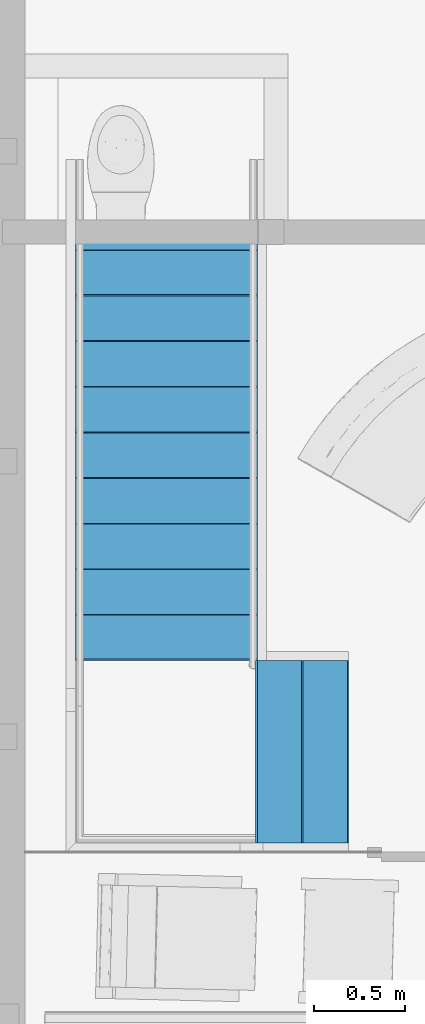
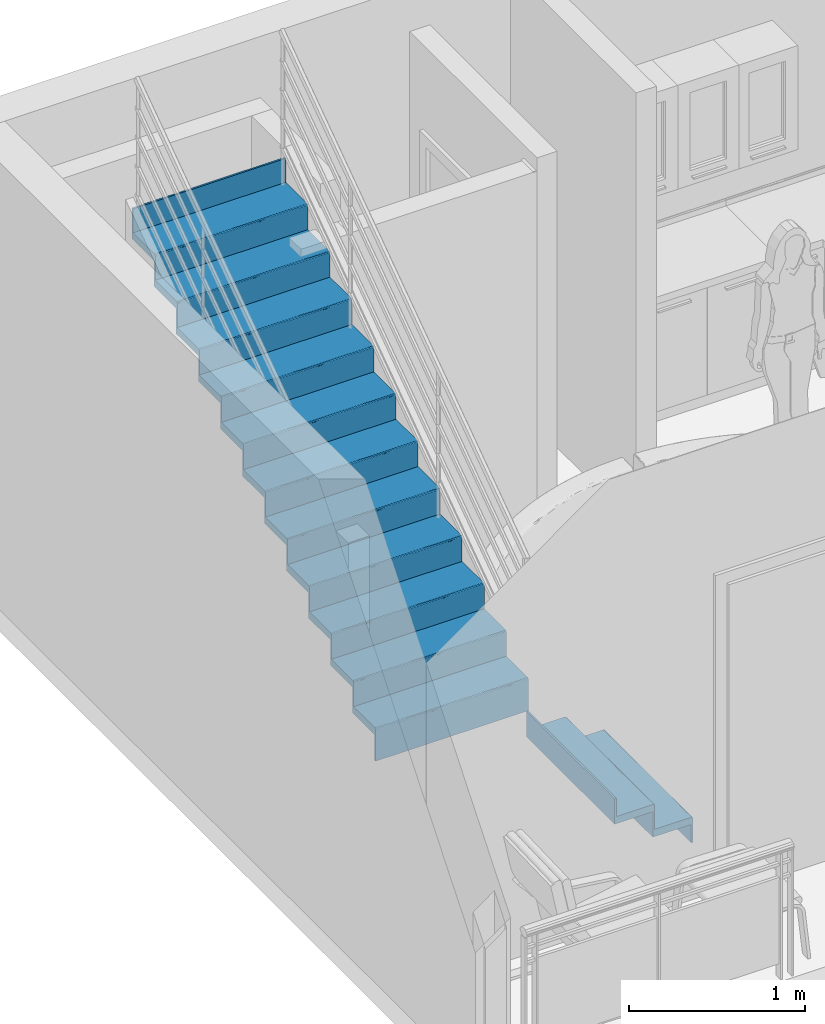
# One storey, part 3 of 7: 2 stair flights, 1 element without a shape of its own.
"""IFC2X3 building model written with IfcOpenShell, lengths in metres."""

from ifc_helpers import new_model, entity, si_unit, converted_unit, derived_unit, direction, frame, frame_2d, origin, origin_2d_with_axis, place, context, subcontext, project, spatial, polyline, circle_curve, parameter, trimmed, segment, composite_curve, rectangle, outline, extrude, material, type_object, element, aggregate, save


model = new_model("IFC2X3")

# Units and contexts
model_context = context("Model", 3, precision=1e-05, world=origin(), true_north=direction((6.123233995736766e-17, 1.0)))
body_context = subcontext(model_context, "Body", "Model", "MODEL_VIEW")
ifc_project = project(units=[si_unit("LENGTHUNIT", "METRE"), si_unit("AREAUNIT", "SQUARE_METRE"), converted_unit("PLANEANGLEUNIT", "DEGREE", entity("IfcPlaneAngleMeasure", 0.017453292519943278), si_unit("PLANEANGLEUNIT", "RADIAN"), dimensions=[0, 0, 0, 0, 0, 0, 0]), derived_unit("THERMALTRANSMITTANCEUNIT", [(si_unit("MASSUNIT", "GRAM", prefix="KILO"), 1), (si_unit("THERMODYNAMICTEMPERATUREUNIT", "KELVIN"), -1), (si_unit("TIMEUNIT", "SECOND"), -3)])], contexts=[model_context])

# Site, building, storey
site_placement = place(None, origin())
site = spatial("IfcSite", under=ifc_project, at=site_placement, Name="Default", CompositionType="ELEMENT")
building_placement = place(site_placement, origin())
building = spatial("IfcBuilding", under=site, at=building_placement, CompositionType="ELEMENT")
storey_placement = place(building_placement, origin())
storey = spatial("IfcBuildingStorey", under=building, at=storey_placement, Name="0 - Ground Floor", CompositionType="ELEMENT", Elevation=0.0)

# Stair, stair flights
type_product = type_object("IfcTypeProduct", Name="Assembled Stair:Industrial and Assembly")
stair_placement = place(storey_placement, origin())
stair = element("IfcStair", 1, at=stair_placement, inside=storey, type_object=type_product, Name="Assembled Stair:Stair", ObjectType="Assembled Stair:Industrial and Assembly", ShapeType="QUARTER_TURN_STAIR")
ifc_material = material(Name="Default - Calcestruzzo")
stair_flight_type = type_object("IfcStairFlightType", Name="Non-Monolithic Run:50mm Tread 13mm Riser with Nosing", PredefinedType="STRAIGHT")
stair_flight_1_placement = place(stair_placement, origin())
stair_flight_1 = element("IfcStairFlight", 2, at=stair_flight_1_placement, type_object=stair_flight_type, material=ifc_material, Name="Assembled Stair:Stair:593008 Run 1", ObjectType="Non-Monolithic Run:50mm Tread 13mm Riser with Nosing", NumberOfRiser=3, NumberOfTreads=2, RiserHeight=0.5789717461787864, TreadLength=0.8202099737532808, context=body_context, shape_type="SweptSolid", body=[
    extrude(rectangle(XDim=1.0, YDim=0.0125, at=origin_2d_with_axis()), frame((-0.5381740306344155, -0.6917499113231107, 0.35294117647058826), z_axis=(0.0, 0.0, 1.0), x_axis=(0.0, -1.0, 0.0)), (0.0, 0.0, 1.0), 0.16647058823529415),
    extrude(outline(composite_curve([segment(trimmed(circle_curve(frame_2d((-0.09600000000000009, 0.014000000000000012), x_axis=(1.0, 0.0)), 0.009999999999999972), [parameter(90.00000000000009)], [parameter(269.9999999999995)], True, "PARAMETER"), True, "CONTINUOUS"), segment(polyline([(-0.09600000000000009, 0.004000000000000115), (-0.09600000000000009, -0.025999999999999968)]), True, "CONTINUOUS"), segment(polyline([(-0.09600000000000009, -0.025999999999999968), (0.1439999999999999, -0.025999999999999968)]), True, "CONTINUOUS"), segment(polyline([(0.1439999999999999, -0.025999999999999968), (0.1439999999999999, 0.02400000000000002)]), True, "CONTINUOUS"), segment(polyline([(0.1439999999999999, 0.02400000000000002), (-0.09600000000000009, 0.02400000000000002)]), True, "CONTINUOUS")], self_intersect=False)), frame((-0.6379240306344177, -1.1917499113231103, 0.5054117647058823), z_axis=(0.0, 1.0, 0.0), x_axis=(-1.0, 0.0, 0.0)), (0.0, 0.0, 1.0), 1.0),
    extrude(rectangle(XDim=1.0, YDim=0.0125, at=frame_2d((0.0, -6.765421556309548e-17), x_axis=(1.0, 0.0))), frame((-0.7881740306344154, -0.6917499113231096, 0.47941176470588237), z_axis=(0.0, 0.0, 1.0), x_axis=(0.0, -1.0, 0.0)), (0.0, 0.0, 1.0), 0.21647058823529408),
    extrude(outline(composite_curve([segment(trimmed(circle_curve(frame_2d((-0.09600000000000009, 0.013999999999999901), x_axis=(1.0, 0.0)), 0.009999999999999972), [parameter(90.00000000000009)], [parameter(269.9999999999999)], True, "PARAMETER"), True, "CONTINUOUS"), segment(polyline([(-0.09600000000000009, 0.0039999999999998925), (-0.09600000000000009, -0.026000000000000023)]), True, "CONTINUOUS"), segment(polyline([(-0.09600000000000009, -0.026000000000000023), (0.14400000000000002, -0.026000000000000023)]), True, "CONTINUOUS"), segment(polyline([(0.14400000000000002, -0.026000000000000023), (0.14400000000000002, 0.02400000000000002)]), True, "CONTINUOUS"), segment(polyline([(0.14400000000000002, 0.02400000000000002), (-0.09600000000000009, 0.02400000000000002)]), True, "CONTINUOUS")], self_intersect=False)), frame((-0.8879240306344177, -1.1917499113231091, 0.6818823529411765), z_axis=(0.0, 1.0, 0.0), x_axis=(-1.0, 0.0, 0.0)), (0.0, 0.0, 1.0), 1.0),
    extrude(rectangle(XDim=1.0, YDim=0.0125, at=frame_2d((0.0, -6.765421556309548e-17), x_axis=(1.0, 0.0))), frame((-1.0381740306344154, -0.6917499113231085, 0.6558823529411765), z_axis=(0.0, 0.0, 1.0), x_axis=(0.0, -1.0, 0.0)), (0.0, 0.0, 1.0), 0.17647058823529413),
])
stair_flight_2_placement = place(stair_placement, origin())
stair_flight_2 = element("IfcStairFlight", 3, at=stair_flight_2_placement, type_object=stair_flight_type, material=ifc_material, Name="Assembled Stair:Stair:593008 Run 2", ObjectType="Non-Monolithic Run:50mm Tread 13mm Riser with Nosing", NumberOfRiser=12, NumberOfTreads=11, RiserHeight=0.5789717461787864, TreadLength=0.8202099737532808, context=body_context, shape_type="SweptSolid", body=[
    extrude(rectangle(XDim=1.0, YDim=0.0125, at=origin_2d_with_axis()), frame((-1.5319240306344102, -0.18549991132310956, 0.8323529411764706), z_axis=(0.0, 0.0, 1.0), x_axis=(-1.0, 0.0, 0.0)), (0.0, 0.0, 1.0), 0.21647058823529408),
    extrude(outline(composite_curve([segment(trimmed(circle_curve(frame_2d((-0.0959999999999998, 0.01399999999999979), x_axis=(1.0, 0.0)), 0.009999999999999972), [parameter(90.00000000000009)], [parameter(269.9999999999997)], True, "PARAMETER"), True, "CONTINUOUS"), segment(polyline([(-0.0959999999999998, 0.0039999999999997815), (-0.0959999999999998, -0.026000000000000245)]), True, "CONTINUOUS"), segment(polyline([(-0.0959999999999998, -0.026000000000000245), (0.14399999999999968, -0.026000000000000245)]), True, "CONTINUOUS"), segment(polyline([(0.14399999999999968, -0.026000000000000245), (0.14399999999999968, 0.0239999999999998)]), True, "CONTINUOUS"), segment(polyline([(0.14399999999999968, 0.0239999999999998), (-0.0959999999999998, 0.0239999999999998)]), True, "CONTINUOUS")], self_intersect=False)), frame((-2.03192403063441, -0.0857499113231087, 1.034823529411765), z_axis=(1.0, 0.0, 0.0), x_axis=(0.0, 1.0, 0.0)), (0.0, 0.0, 1.0), 1.0000000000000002),
    extrude(rectangle(XDim=1.0, YDim=0.0125, at=frame_2d((-2.220446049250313e-16, 0.0), x_axis=(1.0, 0.0))), frame((-1.5319240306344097, 0.06450008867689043, 1.0088235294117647), z_axis=(0.0, 0.0, 1.0), x_axis=(-1.0, 0.0, 0.0)), (0.0, 0.0, 1.0), 0.21647058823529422),
    extrude(outline(composite_curve([segment(trimmed(circle_curve(frame_2d((-0.09600000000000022, 0.014000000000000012), x_axis=(1.0, 0.0)), 0.009999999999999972), [parameter(89.99999999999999)], [parameter(269.99999999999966)], True, "PARAMETER"), True, "CONTINUOUS"), segment(polyline([(-0.09600000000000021, 0.0040000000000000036), (-0.09600000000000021, -0.026000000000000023)]), True, "CONTINUOUS"), segment(polyline([(-0.09600000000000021, -0.026000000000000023), (0.14400000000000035, -0.026000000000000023)]), True, "CONTINUOUS"), segment(polyline([(0.14400000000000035, -0.026000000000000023), (0.14400000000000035, 0.02400000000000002)]), True, "CONTINUOUS"), segment(polyline([(0.14400000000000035, 0.02400000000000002), (-0.09600000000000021, 0.02400000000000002)]), True, "CONTINUOUS")], self_intersect=False)), frame((-2.0319240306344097, 0.16425008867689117, 1.2112941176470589), z_axis=(1.0, 0.0, 0.0), x_axis=(0.0, 1.0, 0.0)), (0.0, 0.0, 1.0), 1.0),
    extrude(rectangle(XDim=0.9999999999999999, YDim=0.0125, at=frame_2d((5.551115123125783e-17, 0.0), x_axis=(1.0, 0.0))), frame((-1.5319240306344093, 0.3145000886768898, 1.1852941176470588), z_axis=(0.0, 0.0, 1.0), x_axis=(-1.0, 0.0, 0.0)), (0.0, 0.0, 1.0), 0.21647058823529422),
    extrude(outline(composite_curve([segment(trimmed(circle_curve(frame_2d((-0.09600000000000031, 0.014000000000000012), x_axis=(1.0, 0.0)), 0.009999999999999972), [parameter(89.99999999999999)], [parameter(269.99999999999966)], True, "PARAMETER"), True, "CONTINUOUS"), segment(polyline([(-0.09600000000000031, 0.004000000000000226), (-0.09600000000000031, -0.026000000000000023)]), True, "CONTINUOUS"), segment(polyline([(-0.09600000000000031, -0.026000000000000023), (0.14400000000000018, -0.026000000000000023)]), True, "CONTINUOUS"), segment(polyline([(0.14400000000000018, -0.026000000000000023), (0.14400000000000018, 0.02400000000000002)]), True, "CONTINUOUS"), segment(polyline([(0.14400000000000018, 0.02400000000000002), (-0.09600000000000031, 0.02400000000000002)]), True, "CONTINUOUS")], self_intersect=False)), frame((-2.0319240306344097, 0.41425008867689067, 1.387764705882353), z_axis=(1.0, 0.0, 0.0), x_axis=(0.0, 1.0, 0.0)), (0.0, 0.0, 1.0), 1.0),
    extrude(rectangle(XDim=0.9999999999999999, YDim=0.0125, at=frame_2d((5.551115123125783e-17, 6.765421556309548e-17), x_axis=(1.0, 0.0))), frame((-1.5319240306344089, 0.5645000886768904, 1.361764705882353), z_axis=(0.0, 0.0, 1.0), x_axis=(-1.0, 0.0, 0.0)), (0.0, 0.0, 1.0), 0.21647058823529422),
    extrude(outline(composite_curve([segment(trimmed(circle_curve(frame_2d((-0.0960000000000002, 0.014000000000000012), x_axis=(1.0, 0.0)), 0.009999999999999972), [parameter(89.99999999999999)], [parameter(269.99999999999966)], True, "PARAMETER"), True, "CONTINUOUS"), segment(polyline([(-0.0960000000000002, 0.0039999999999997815), (-0.0960000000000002, -0.026000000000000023)]), True, "CONTINUOUS"), segment(polyline([(-0.0960000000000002, -0.026000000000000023), (0.14400000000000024, -0.026000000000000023)]), True, "CONTINUOUS"), segment(polyline([(0.14400000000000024, -0.026000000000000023), (0.14400000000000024, 0.0239999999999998)]), True, "CONTINUOUS"), segment(polyline([(0.14400000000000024, 0.0239999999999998), (-0.0960000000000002, 0.0239999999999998)]), True, "CONTINUOUS")], self_intersect=False)), frame((-2.031924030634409, 0.6642500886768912, 1.5642352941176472), z_axis=(1.0, 0.0, 0.0), x_axis=(0.0, 1.0, 0.0)), (0.0, 0.0, 1.0), 1.0),
    extrude(rectangle(XDim=0.9999999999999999, YDim=0.0125, at=frame_2d((5.551115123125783e-17, -6.765421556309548e-17), x_axis=(1.0, 0.0))), frame((-1.5319240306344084, 0.8145000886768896, 1.5382352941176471), z_axis=(0.0, 0.0, 1.0), x_axis=(-1.0, 0.0, 0.0)), (0.0, 0.0, 1.0), 0.21647058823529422),
    extrude(outline(composite_curve([segment(trimmed(circle_curve(frame_2d((-0.0960000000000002, 0.014000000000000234), x_axis=(1.0, 0.0)), 0.009999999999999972), [parameter(89.99999999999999)], [parameter(269.99999999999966)], True, "PARAMETER"), True, "CONTINUOUS"), segment(polyline([(-0.0960000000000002, 0.004000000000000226), (-0.0960000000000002, -0.026000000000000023)]), True, "CONTINUOUS"), segment(polyline([(-0.0960000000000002, -0.026000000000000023), (0.14400000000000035, -0.026000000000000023)]), True, "CONTINUOUS"), segment(polyline([(0.14400000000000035, -0.026000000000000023), (0.14400000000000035, 0.02400000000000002)]), True, "CONTINUOUS"), segment(polyline([(0.14400000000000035, 0.02400000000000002), (-0.0960000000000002, 0.02400000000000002)]), True, "CONTINUOUS")], self_intersect=False)), frame((-2.0319240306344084, 0.9142500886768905, 1.740705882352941), z_axis=(1.0, 0.0, 0.0), x_axis=(0.0, 1.0, 0.0)), (0.0, 0.0, 1.0), 1.0),
    extrude(rectangle(XDim=0.9999999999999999, YDim=0.0125, at=frame_2d((5.551115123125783e-17, -6.765421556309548e-17), x_axis=(1.0, 0.0))), frame((-1.531924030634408, 1.0645000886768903, 1.714705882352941), z_axis=(0.0, 0.0, 1.0), x_axis=(-1.0, 0.0, 0.0)), (0.0, 0.0, 1.0), 0.21647058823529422),
    extrude(outline(composite_curve([segment(trimmed(circle_curve(frame_2d((-0.09600000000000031, 0.014000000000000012), x_axis=(1.0, 0.0)), 0.009999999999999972), [parameter(89.99999999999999)], [parameter(269.99999999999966)], True, "PARAMETER"), True, "CONTINUOUS"), segment(polyline([(-0.09600000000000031, 0.0040000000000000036), (-0.09600000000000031, -0.026000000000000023)]), True, "CONTINUOUS"), segment(polyline([(-0.09600000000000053, -0.026000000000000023), (0.14400000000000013, -0.026000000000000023)]), True, "CONTINUOUS"), segment(polyline([(0.14400000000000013, -0.026000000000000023), (0.14400000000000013, 0.02400000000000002)]), True, "CONTINUOUS"), segment(polyline([(0.14400000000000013, 0.02400000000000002), (-0.09600000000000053, 0.02400000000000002)]), True, "CONTINUOUS")], self_intersect=False)), frame((-2.031924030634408, 1.1642500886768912, 1.9171764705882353), z_axis=(1.0, 0.0, 0.0), x_axis=(0.0, 1.0, 0.0)), (0.0, 0.0, 1.0), 1.0),
    extrude(rectangle(XDim=0.9999999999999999, YDim=0.012500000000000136, at=frame_2d((5.551115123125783e-17, 0.0), x_axis=(1.0, 0.0))), frame((-1.5319240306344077, 1.31450008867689, 1.8911764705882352), z_axis=(0.0, 0.0, 1.0), x_axis=(-1.0, 0.0, 0.0)), (0.0, 0.0, 1.0), 0.21647058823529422),
    extrude(outline(composite_curve([segment(trimmed(circle_curve(frame_2d((-0.09600000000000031, 0.014000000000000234), x_axis=(1.0, 0.0)), 0.009999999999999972), [parameter(89.99999999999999)], [parameter(269.99999999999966)], True, "PARAMETER"), True, "CONTINUOUS"), segment(polyline([(-0.09600000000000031, 0.0040000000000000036), (-0.09600000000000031, -0.026000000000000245)]), True, "CONTINUOUS"), segment(polyline([(-0.09600000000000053, -0.026000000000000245), (0.14400000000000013, -0.026000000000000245)]), True, "CONTINUOUS"), segment(polyline([(0.14400000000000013, -0.026000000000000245), (0.14400000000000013, 0.02400000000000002)]), True, "CONTINUOUS"), segment(polyline([(0.14400000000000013, 0.02400000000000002), (-0.09600000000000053, 0.02400000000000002)]), True, "CONTINUOUS")], self_intersect=False)), frame((-2.0319240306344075, 1.4142500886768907, 2.0936470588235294), z_axis=(1.0, 0.0, 0.0), x_axis=(0.0, 1.0, 0.0)), (0.0, 0.0, 1.0), 1.0),
    extrude(rectangle(XDim=0.9999999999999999, YDim=0.012500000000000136, at=frame_2d((5.551115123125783e-17, 0.0), x_axis=(1.0, 0.0))), frame((-1.531924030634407, 1.5645000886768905, 2.067647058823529), z_axis=(0.0, 0.0, 1.0), x_axis=(-1.0, 0.0, 0.0)), (0.0, 0.0, 1.0), 0.21647058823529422),
    extrude(outline(composite_curve([segment(trimmed(circle_curve(frame_2d((-0.09600000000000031, 0.014000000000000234), x_axis=(1.0, 0.0)), 0.009999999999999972), [parameter(89.99999999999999)], [parameter(269.99999999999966)], True, "PARAMETER"), True, "CONTINUOUS"), segment(polyline([(-0.09600000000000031, 0.0040000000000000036), (-0.09600000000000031, -0.0259999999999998)]), True, "CONTINUOUS"), segment(polyline([(-0.09600000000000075, -0.0259999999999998), (0.1439999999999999, -0.0259999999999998)]), True, "CONTINUOUS"), segment(polyline([(0.1439999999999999, -0.0259999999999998), (0.1439999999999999, 0.02400000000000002)]), True, "CONTINUOUS"), segment(polyline([(0.1439999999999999, 0.02400000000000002), (-0.09600000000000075, 0.02400000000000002)]), True, "CONTINUOUS")], self_intersect=False)), frame((-2.031924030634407, 1.6642500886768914, 2.2701176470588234), z_axis=(1.0, 0.0, 0.0), x_axis=(0.0, 1.0, 0.0)), (0.0, 0.0, 1.0), 1.0),
    extrude(rectangle(XDim=0.9999999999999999, YDim=0.012500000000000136, at=frame_2d((5.551115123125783e-17, 0.0), x_axis=(1.0, 0.0))), frame((-1.5319240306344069, 1.81450008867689, 2.2441176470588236), z_axis=(0.0, 0.0, 1.0), x_axis=(-1.0, 0.0, 0.0)), (0.0, 0.0, 1.0), 0.21647058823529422),
    extrude(outline(composite_curve([segment(trimmed(circle_curve(frame_2d((-0.09600000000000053, 0.01399999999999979), x_axis=(1.0, 0.0)), 0.009999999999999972), [parameter(89.99999999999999)], [parameter(269.99999999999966)], True, "PARAMETER"), True, "CONTINUOUS"), segment(polyline([(-0.09600000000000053, 0.0040000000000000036), (-0.09600000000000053, -0.026000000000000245)]), True, "CONTINUOUS"), segment(polyline([(-0.09600000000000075, -0.026000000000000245), (0.1439999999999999, -0.026000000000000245)]), True, "CONTINUOUS"), segment(polyline([(0.1439999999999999, -0.026000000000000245), (0.1439999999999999, 0.02400000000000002)]), True, "CONTINUOUS"), segment(polyline([(0.1439999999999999, 0.02400000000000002), (-0.09600000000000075, 0.02400000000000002)]), True, "CONTINUOUS")], self_intersect=False)), frame((-2.031924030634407, 1.914250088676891, 2.4465882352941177), z_axis=(1.0, 0.0, 0.0), x_axis=(0.0, 1.0, 0.0)), (0.0, 0.0, 1.0), 1.0),
    extrude(rectangle(XDim=0.9999999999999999, YDim=0.012500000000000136, at=frame_2d((5.551115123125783e-17, 0.0), x_axis=(1.0, 0.0))), frame((-1.5319240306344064, 2.0645000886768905, 2.4205882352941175), z_axis=(0.0, 0.0, 1.0), x_axis=(-1.0, 0.0, 0.0)), (0.0, 0.0, 1.0), 0.21647058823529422),
    extrude(outline(composite_curve([segment(trimmed(circle_curve(frame_2d((-0.09600000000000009, 0.013999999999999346), x_axis=(1.0, 0.0)), 0.009999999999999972), [parameter(89.99999999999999)], [parameter(269.99999999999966)], True, "PARAMETER"), True, "CONTINUOUS"), segment(polyline([(-0.09600000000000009, 0.0039999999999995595), (-0.09600000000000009, -0.02600000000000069)]), True, "CONTINUOUS"), segment(polyline([(-0.09600000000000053, -0.02600000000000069), (0.14400000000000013, -0.02600000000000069)]), True, "CONTINUOUS"), segment(polyline([(0.14400000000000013, -0.02600000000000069), (0.14400000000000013, 0.023999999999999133)]), True, "CONTINUOUS"), segment(polyline([(0.14400000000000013, 0.023999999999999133), (-0.09600000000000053, 0.023999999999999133)]), True, "CONTINUOUS")], self_intersect=False)), frame((-2.031924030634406, 2.164250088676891, 2.623058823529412), z_axis=(1.0, 0.0, 0.0), x_axis=(0.0, 1.0, 0.0)), (0.0, 0.0, 1.0), 1.0),
    extrude(rectangle(XDim=0.9999999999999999, YDim=0.012500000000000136, at=frame_2d((5.551115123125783e-17, -2.706168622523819e-16), x_axis=(1.0, 0.0))), frame((-1.531924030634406, 2.3145000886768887, 2.597058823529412), z_axis=(0.0, 0.0, 1.0), x_axis=(-1.0, 0.0, 0.0)), (0.0, 0.0, 1.0), 0.21647058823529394),
    extrude(rectangle(XDim=1.0, YDim=0.012499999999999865, at=frame_2d((0.0, -2.706168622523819e-16), x_axis=(1.0, 0.0))), frame((-1.5319240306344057, 2.5645000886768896, 2.773529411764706), z_axis=(0.0, 0.0, 1.0), x_axis=(-1.0, 0.0, 0.0)), (0.0, 0.0, 1.0), 0.21647058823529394),
    extrude(outline(composite_curve([segment(trimmed(circle_curve(frame_2d((-0.09600000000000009, 0.013999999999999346), x_axis=(1.0, 0.0)), 0.009999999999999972), [parameter(89.99999999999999)], [parameter(269.99999999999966)], True, "PARAMETER"), True, "CONTINUOUS"), segment(polyline([(-0.09600000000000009, 0.0039999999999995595), (-0.09600000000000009, -0.02600000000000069)]), True, "CONTINUOUS"), segment(polyline([(-0.09600000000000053, -0.02600000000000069), (0.14400000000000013, -0.02600000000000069)]), True, "CONTINUOUS"), segment(polyline([(0.14400000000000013, -0.02600000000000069), (0.14400000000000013, 0.023999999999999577)]), True, "CONTINUOUS"), segment(polyline([(0.14400000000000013, 0.023999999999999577), (-0.09600000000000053, 0.023999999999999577)]), True, "CONTINUOUS")], self_intersect=False)), frame((-2.031924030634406, 2.41425008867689, 2.7995294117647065), z_axis=(1.0, 0.0, 0.0), x_axis=(0.0, 1.0, 0.0)), (0.0, 0.0, 1.0), 1.0),
])
aggregate(stair, [stair_flight_1, stair_flight_2])

save(model, "model.ifc")
